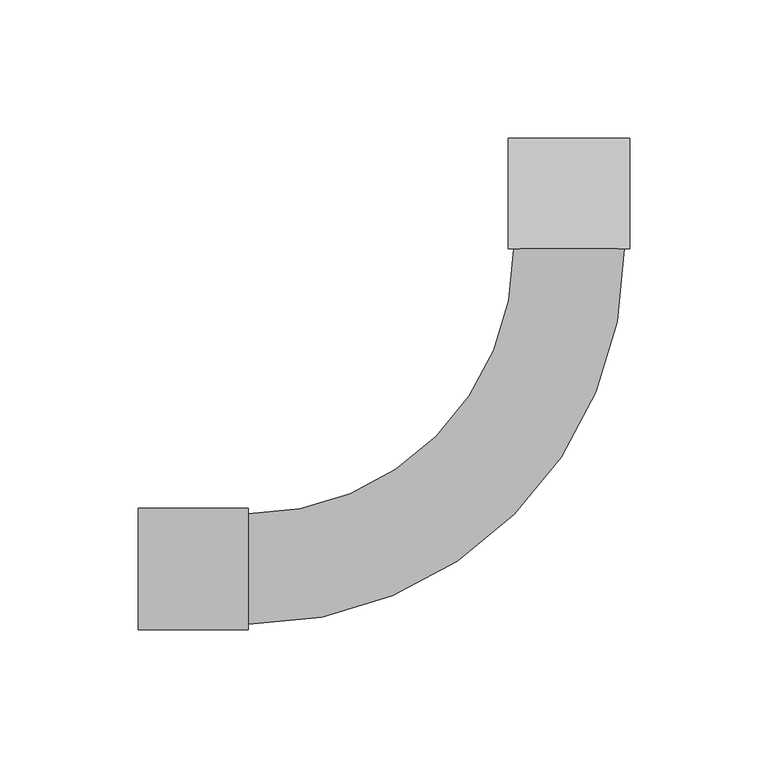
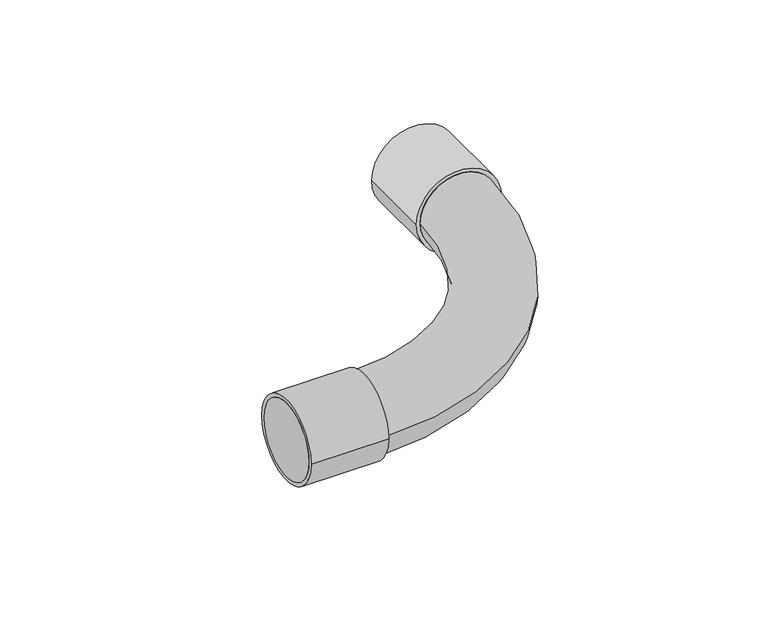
"""IFC4 building model written with IfcOpenShell, lengths in millimetres: cable carrier fitting geometry, Поворот на 90 труба-труба CRSG : Поворот на 90 труба-труба CRSG."""

from ifc_helpers import new_model, si_unit, point, frame, origin, origin_2d, place, context, project, spatial, circle_curve, ellipse_curve, trimmed, segment, composite_curve, outline, extrude, source, transform, mapped, element, save
from ifc_brep_helpers import plane_surface, cylinder_surface, revolved_surface, advanced_brep


def cable_carrier_fitting_7fea5a78(model_context):
    return source(origin(), model_context, "Body", "SolidModel", [
        advanced_brep(
        [(-156.083, -19.9898, 0.0), (-156.083, 19.9898, 0.0), (-116.1034, -19.9898, 0.0), (-116.1034, 19.9898, 0.0), (-19.9898, 116.1034, 0.0), (19.9898, 116.1034, 0.0), (19.9898, 156.083, 0.0), (-19.9898, 156.083, 0.0)],
        [
            (0, 1, circle_curve(frame((-156.083, 0.0, 0.0), z_axis=(-1.0, 0.0, 0.0), x_axis=(0.0, 1.0, 0.0)), 19.9898)),
            (1, 0, circle_curve(frame((-156.083, 0.0, 0.0), z_axis=(-1.0, 0.0, 0.0), x_axis=(0.0, 1.0, 0.0)), 19.9898)),
            (0, 2),
            (2, 3, circle_curve(frame((-116.1034, 0.0, 0.0), z_axis=(-1.0, 0.0, 0.0), x_axis=(0.0, 1.0, 0.0)), 19.9898)),
            (3, 1),
            (3, 2, circle_curve(frame((-116.1034, 0.0, 0.0), z_axis=(-1.0, 0.0, 0.0), x_axis=(0.0, 1.0, 0.0)), 19.9898)),
            (4, 3, circle_curve(frame((-116.1034, 116.1034, 0.0), z_axis=(0.0, 0.0, -1.0), x_axis=(0.0, -1.0, 0.0)), 96.1136)),
            (2, 5, circle_curve(frame((-116.1034, 116.1034, 0.0), z_axis=(0.0, 0.0, 1.0), x_axis=(0.0, -1.0, 0.0)), 136.0932)),
            (5, 4, circle_curve(frame((0.0, 116.1034, 0.0), z_axis=(0.0, -1.0, 0.0), x_axis=(-1.0, 0.0, 0.0)), 19.9898)),
            (4, 5, circle_curve(frame((0.0, 116.1034, 0.0), z_axis=(0.0, -1.0, 0.0), x_axis=(-1.0, 0.0, 0.0)), 19.9898)),
            (6, 7, circle_curve(frame((0.0, 156.083, 0.0), z_axis=(0.0, 1.0, 0.0), x_axis=(-1.0, 0.0, 0.0)), 19.9898)),
            (7, 6, circle_curve(frame((0.0, 156.083, 0.0), z_axis=(0.0, 1.0, 0.0), x_axis=(-1.0, 0.0, 0.0)), 19.9898)),
            (5, 6),
            (7, 4),
        ],
        [
            plane_surface(frame((-156.083, 0.0, 0.0), z_axis=(-1.0, 0.0, 0.0), x_axis=(0.0, 0.0, 1.0))),
            cylinder_surface(frame((-156.083, 0.0, 0.0), z_axis=(-1.0, 0.0, 0.0), x_axis=(0.0, 1.0, 0.0)), 19.9898),
            revolved_surface(trimmed(ellipse_curve(frame((-116.1034, 0.0, 0.0), z_axis=(-1.0, 0.0, 0.0), x_axis=(0.0, 1.0, 0.0)), 19.9898, 19.9898), [point((-116.1034, -19.9898, 0.0))], [point((-116.1034, 19.9898, 0.0))], True, "CARTESIAN"), (-116.1034, 116.1034, 0.0), (0.0, 0.0, 1.0)),
            revolved_surface(trimmed(ellipse_curve(frame((-116.1034, 0.0, 0.0), z_axis=(-1.0, 0.0, 0.0), x_axis=(0.0, 1.0, 0.0)), 19.9898, 19.9898), [point((-116.1034, 19.9898, 0.0))], [point((-116.1034, -19.9898, 0.0))], True, "CARTESIAN"), (-116.1034, 116.1034, 0.0), (0.0, 0.0, 1.0)),
            plane_surface(frame((0.0, 156.083, 0.0), z_axis=(0.0, 1.0, 0.0), x_axis=(0.0, 0.0, 1.0))),
            cylinder_surface(frame((0.0, 116.1034, 0.0), z_axis=(0.0, -1.0, 0.0), x_axis=(-1.0, 0.0, 0.0)), 19.9898),
        ],
        [
            (0, [[1, 2]]),
            (1, [[-1, 3, 4, 5]]),
            (1, [[-2, -5, 6, -3]]),
            (2, [[7, -4, 8, 9]]),
            (3, [[-8, -6, -7, 10]]),
            (4, [[11, 12]]),
            (5, [[-9, 13, -12, 14]]),
            (5, [[-10, -14, -11, -13]]),
        ],
    ),
        extrude(outline(composite_curve([segment(trimmed(circle_curve(origin_2d(), 22.0), [point((-22.0, 0.0))], [point((22.0, 0.0))], False, "CARTESIAN"), True, "CONTINUOUS"), segment(trimmed(circle_curve(origin_2d(), 22.0), [point((22.0, 0.0))], [point((-22.0, 0.0))], False, "CARTESIAN"), True, "CONTINUOUS")], self_intersect=False)), frame((-156.083, 0.0, 0.0), z_axis=(1.0, 0.0, 0.0), x_axis=(0.0, 1.0, 0.0)), (0.0, 0.0, 1.0), 39.9796),
        extrude(outline(composite_curve([segment(trimmed(circle_curve(origin_2d(), 22.0), [point((0.0, 22.0))], [point((0.0, -22.0))], False, "CARTESIAN"), True, "CONTINUOUS"), segment(trimmed(circle_curve(origin_2d(), 22.0), [point((0.0, -22.0))], [point((0.0, 22.0))], False, "CARTESIAN"), True, "CONTINUOUS")], self_intersect=False)), frame((0.0, 116.1034, 0.0), z_axis=(0.0, 1.0, 0.0), x_axis=(0.0, 0.0, 1.0)), (0.0, 0.0, 1.0), 39.9796),
    ])


if __name__ == "__main__":
    model = new_model("IFC4")
    model_context = context("Model", 3, world=origin())
    ifc_project = project(units=[si_unit("LENGTHUNIT", "METRE", prefix="MILLI")], contexts=[model_context])
    site = spatial("IfcSite", under=ifc_project)
    building = spatial("IfcBuilding", under=site)
    placement = place(None, origin())
    cable_carrier_fitting_shape = cable_carrier_fitting_7fea5a78(model_context)
    element("IfcCableCarrierFitting", 1, ObjectType="Поворот на 90 труба-труба CRSG : Поворот на 90 труба-труба CRSG", at=placement, inside=building, context=model_context, shape_type="MappedRepresentation", body=[
        mapped(cable_carrier_fitting_shape, transform((0.0, 0.0, 0.0), x_axis=(1.0, 0.0, 0.0), y_axis=(0.0, 1.0, 0.0), z_axis=(0.0, 0.0, 1.0))),
    ])
    save(model, "model.ifc")
